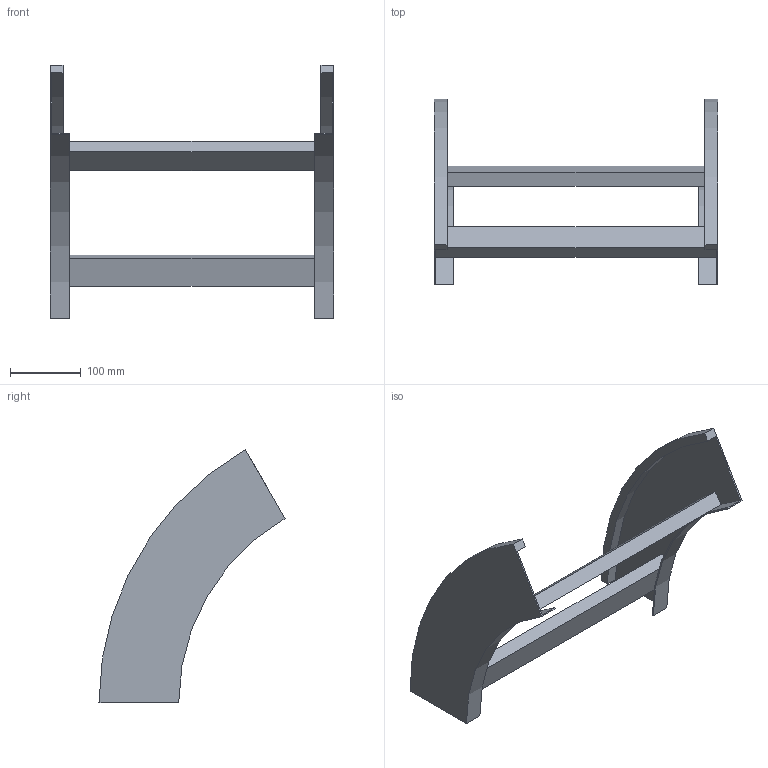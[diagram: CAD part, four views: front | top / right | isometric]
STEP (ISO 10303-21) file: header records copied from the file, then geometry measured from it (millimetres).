
FILE_DESCRIPTION (( 'STEP AP214' ), '1' );
FILE_NAME ('B2_41B3J400.step', '2025-02-21T14:58:53', ( '' ), ( '' ), 'SwSTEP 2.0', 'SolidWorks 2023', '' );
FILE_SCHEMA (( 'AUTOMOTIVE_DESIGN' ));
Length unit declared in the file: millimetre
Products named in the file (3): B2_41B3J400; TRAVERSINO_400; B2_LONGH.DISCESA_60°_H112.5_R300
Assembly tree (4 placements, depth 2):
  B2_41B3J400
    B2_LONGH.DISCESA_60°_H112.5_R300  x2
    TRAVERSINO_400  x2
Bounding box: 400 x 262.5 x 357.24 mm (x, y, z)
Volume: 1004382.9 mm3; surface area: 330567.9 mm2
Topology: 4 solids, 4 shells, 32 faces, 72 edges, 48 vertices
Faces by surface type: plane 24, cylinder 8
Entity records: 552 total; most frequent: DIRECTION 90, CARTESIAN_POINT 83, ORIENTED_EDGE 72, EDGE_CURVE 36, AXIS2_PLACEMENT_3D 31, VECTOR 28, LINE 28, VERTEX_POINT 24
